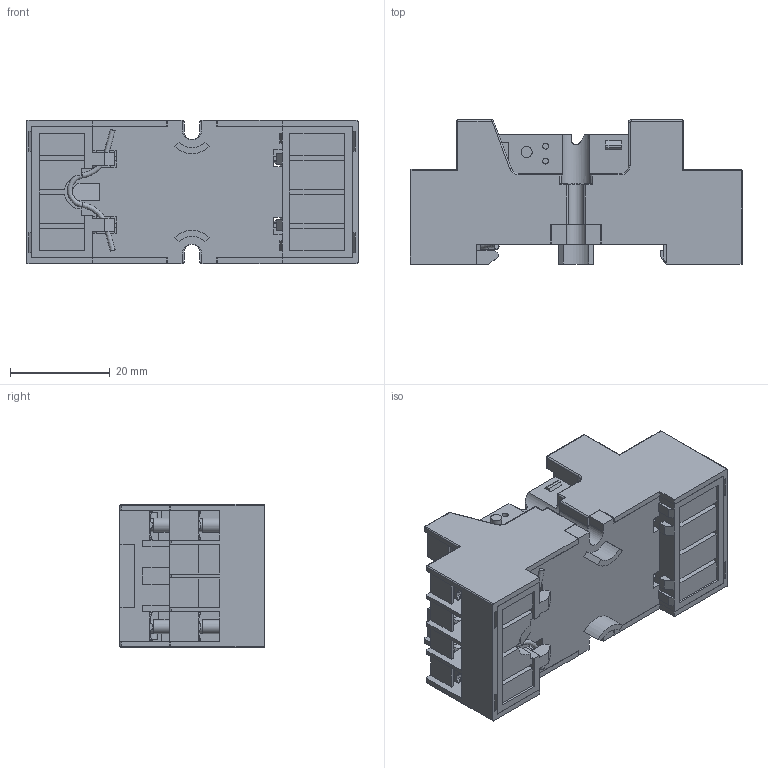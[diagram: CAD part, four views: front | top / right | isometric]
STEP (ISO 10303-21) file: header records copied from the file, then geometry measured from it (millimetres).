
FILE_DESCRIPTION(/* description */ (''),/* implementation_level */ '2;1');
FILE_NAME(/* name */ '18FF-2Z-C8.stp',/* time_stamp */ '2018-12-29T11:58:57+08:00',/* author */ (''),/* organization */ (''),/* preprocessor_version */ 'ST-DEVELOPER v15',/* originating_system */ 'SIEMENS PLM Software NX 8.5',/* authorisation */ '');
FILE_SCHEMA (('CONFIG_CONTROL_DESIGN'));
Length unit declared in the file: millimetre
Products named in the file (6): luoding1159; 89330011160; Lockspring1162; 8605038-201505151163; 80722111164; ASM-C81165
Assembly tree (19 placements, depth 2):
  ASM-C81165
    80722111164
    8605038-201505151163
    Lockspring1162
    89330011160  x8
    luoding1159  x8
Bounding box: 66.7 x 29 x 28.8 mm (x, y, z)
Volume: 24186.8 mm3; surface area: 30524.3 mm2
Topology: 19 solids, 19 shells, 2101 faces, 5858 edges, 3815 vertices
Faces by surface type: plane 1430, cylinder 572, sphere 34, cone 32, torus 18, bspline 15
Full cylindrical faces by diameter (mm): 1.2 x4, 2.2 x2, 2.459 x8, 2.6 x16, 2.874 x8, 2.9 x8, 4.4 x1, 5 x14
Entity records: 46691 total; most frequent: CARTESIAN_POINT 9329, ORIENTED_EDGE 7758, DIRECTION 7259, EDGE_CURVE 3879, LINE 3143, VECTOR 3143, VERTEX_POINT 2556, AXIS2_PLACEMENT_3D 2058
